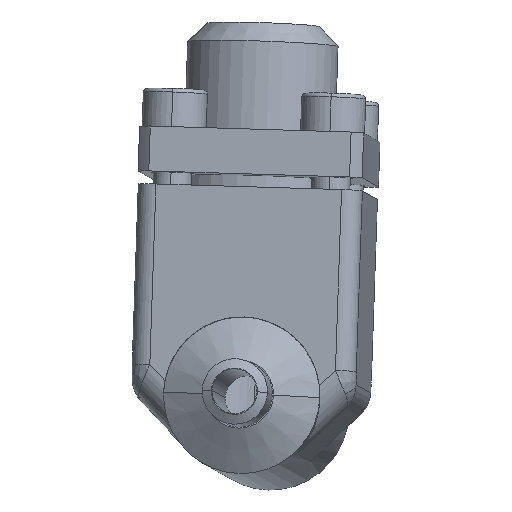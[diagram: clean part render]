
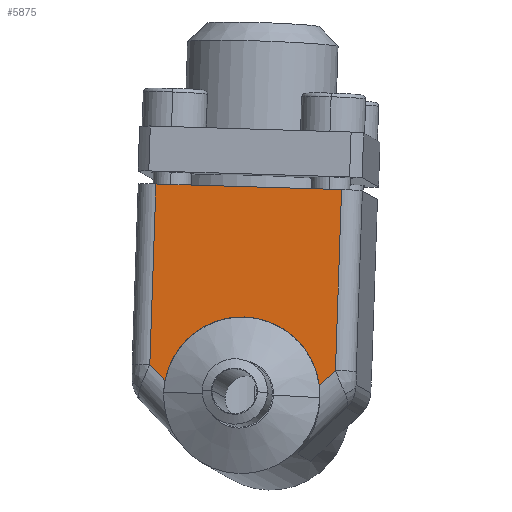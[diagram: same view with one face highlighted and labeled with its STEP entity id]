
A CAD part, top view. The second image highlights one B-rep face of the part: STEP entity #5875.
In plain terms, the highlighted planar face has unit normal (-0.081, 0.044, 0.996) as drawn and (0, 0, 1) by its records, which use the part's own axes.
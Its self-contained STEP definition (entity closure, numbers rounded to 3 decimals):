
#34 = VERTEX_POINT ( 'NONE', #6137 ) ;
#53 = EDGE_CURVE ( 'NONE', #34, #13661, #6142, .T. ) ;
#406 = ORIENTED_EDGE ( 'NONE', *, *, #53, .T. ) ;
#865 = CARTESIAN_POINT ( 'NONE',  ( 14.5, 32.5, 0. ) ) ;
#897 = EDGE_LOOP ( 'NONE', ( #406, #6033, #5942, #10839, #5834, #5757 ) ) ;
#1416 = LINE ( 'NONE', #1417, #1418 ) ;
#1417 = CARTESIAN_POINT ( 'NONE',  ( -17.5, 32.5, 0. ) ) ;
#1418 = VECTOR ( 'NONE', #1419, 1000. ) ;
#1419 = DIRECTION ( 'NONE',  ( -1., 0., 0. ) ) ;
#2899 = CARTESIAN_POINT ( 'NONE',  ( -14.5, 4.318, 0. ) ) ;
#2929 = LINE ( 'NONE', #2930, #2931 ) ;
#2930 = CARTESIAN_POINT ( 'NONE',  ( -5.091, -5.091, 0. ) ) ;
#2931 = VECTOR ( 'NONE', #2932, 1000. ) ;
#2932 = DIRECTION ( 'NONE',  ( 0.707, -0.707, 0. ) ) ;
#4689 = VERTEX_POINT ( 'NONE', #5403 ) ;
#4707 = VERTEX_POINT ( 'NONE', #5409 ) ;
#5403 = CARTESIAN_POINT ( 'NONE',  ( 12.055, 1.873, 0. ) ) ;
#5409 = CARTESIAN_POINT ( 'NONE',  ( -12.055, 1.873, 0. ) ) ;
#5628 = EDGE_CURVE ( 'NONE', #4689, #4707, #8288, .T. ) ;
#5757 = ORIENTED_EDGE ( 'NONE', *, *, #13171, .T. ) ;
#5809 = EDGE_CURVE ( 'NONE', #10282, #12955, #11583, .T. ) ;
#5834 = ORIENTED_EDGE ( 'NONE', *, *, #5809, .T. ) ;
#5875 = ADVANCED_FACE ( 'NONE', ( #13620 ), #13621, .T. ) ;
#5942 = ORIENTED_EDGE ( 'NONE', *, *, #5628, .F. ) ;
#6002 = EDGE_CURVE ( 'NONE', #13661, #4707, #2929, .T. ) ;
#6033 = ORIENTED_EDGE ( 'NONE', *, *, #6002, .T. ) ;
#6137 = CARTESIAN_POINT ( 'NONE',  ( -14.5, 32.5, 0. ) ) ;
#6142 = LINE ( 'NONE', #6143, #6144 ) ;
#6143 = CARTESIAN_POINT ( 'NONE',  ( -14.5, 0., 0. ) ) ;
#6144 = VECTOR ( 'NONE', #6146, 1000. ) ;
#6146 = DIRECTION ( 'NONE',  ( 0., -1., 0. ) ) ;
#6774 = CARTESIAN_POINT ( 'NONE',  ( 14.5, 4.318, 0. ) ) ;
#8242 = LINE ( 'NONE', #8243, #8244 ) ;
#8243 = CARTESIAN_POINT ( 'NONE',  ( 5.091, -5.091, 0. ) ) ;
#8244 = VECTOR ( 'NONE', #8245, 1000. ) ;
#8245 = DIRECTION ( 'NONE',  ( 0.707, 0.707, 0. ) ) ;
#8288 = CIRCLE ( 'NONE', #8289, 12.2 ) ;
#8289 = AXIS2_PLACEMENT_3D ( 'NONE', #8290, #8291, #8292 ) ;
#8290 = CARTESIAN_POINT ( 'NONE',  ( 0., 0., 0. ) ) ;
#8291 = DIRECTION ( 'NONE',  ( 0., 0., 1. ) ) ;
#8292 = DIRECTION ( 'NONE',  ( 1., 0., 0. ) ) ;
#10282 = VERTEX_POINT ( 'NONE', #6774 ) ;
#10490 = EDGE_CURVE ( 'NONE', #4689, #10282, #8242, .T. ) ;
#10839 = ORIENTED_EDGE ( 'NONE', *, *, #10490, .T. ) ;
#11583 = LINE ( 'NONE', #11584, #11585 ) ;
#11584 = CARTESIAN_POINT ( 'NONE',  ( 14.5, 0., 0. ) ) ;
#11585 = VECTOR ( 'NONE', #11586, 1000. ) ;
#11586 = DIRECTION ( 'NONE',  ( 0., 1., 0. ) ) ;
#12955 = VERTEX_POINT ( 'NONE', #865 ) ;
#13171 = EDGE_CURVE ( 'NONE', #12955, #34, #1416, .T. ) ;
#13620 = FACE_OUTER_BOUND ( 'NONE', #897, .T. ) ;
#13621 = PLANE ( 'NONE',  #13622 ) ;
#13622 = AXIS2_PLACEMENT_3D ( 'NONE', #13623, #13624, #13625 ) ;
#13623 = CARTESIAN_POINT ( 'NONE',  ( 0., 0., 0. ) ) ;
#13624 = DIRECTION ( 'NONE',  ( 0., 0., 1. ) ) ;
#13625 = DIRECTION ( 'NONE',  ( 1., 0., 0. ) ) ;
#13661 = VERTEX_POINT ( 'NONE', #2899 ) ;
